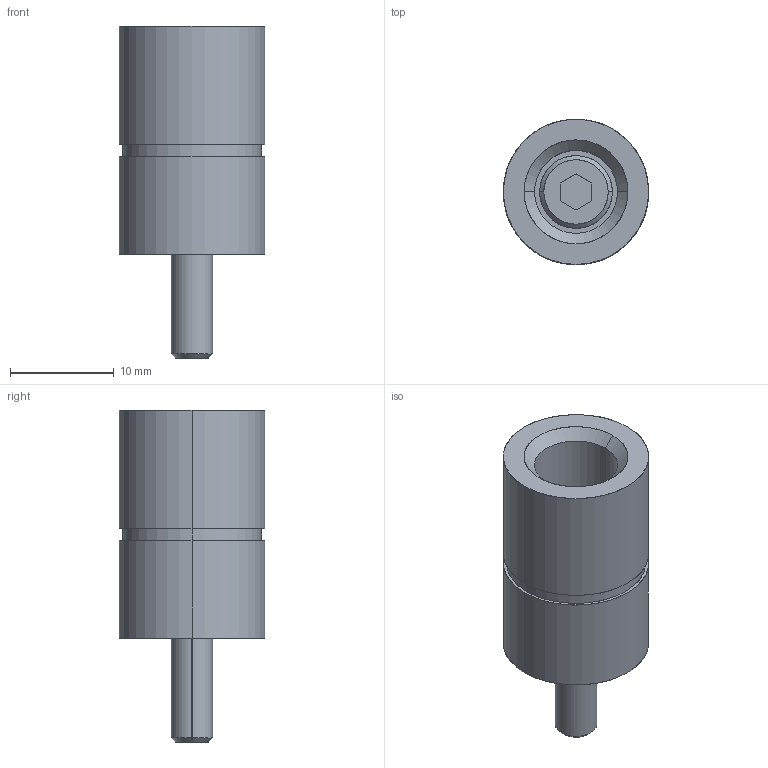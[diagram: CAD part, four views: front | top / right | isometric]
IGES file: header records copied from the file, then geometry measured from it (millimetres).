
Global section: file name: E:\UnigraphicsGraphicData\MISUMI_PRESS-PARTS\IGES\3d_sbn14-22-r_00576_r00.igs; native system: NX V5.0; preprocessor: UGS NX IGES V5.0; author: MISUMI; date: 20110105.162426; units: millimetre
Bounding box: 14 x 14 x 32 mm (x, y, z)
Surface area: 2126.5 mm2 (no closed solid volume)
Topology: 0 solids, 0 shells, 35 faces, 228 edges, 228 vertices
Faces by surface type: bspline 35
